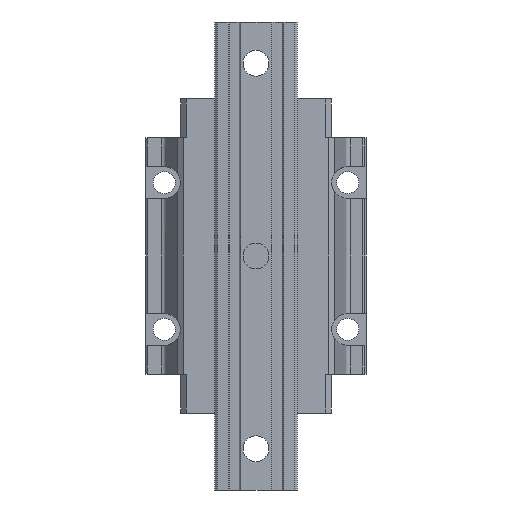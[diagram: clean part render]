
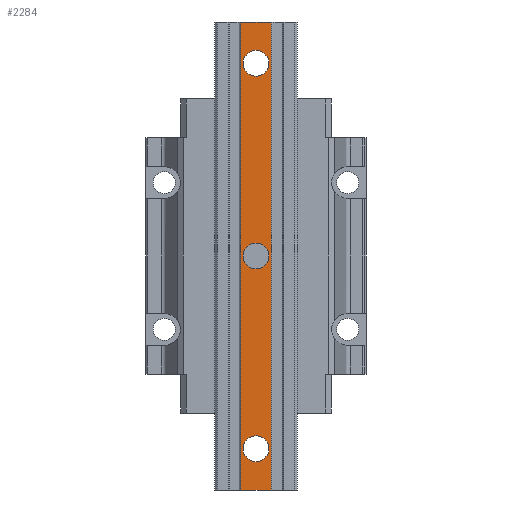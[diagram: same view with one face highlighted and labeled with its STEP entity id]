
A CAD part, front view. The second image highlights one B-rep face of the part: STEP entity #2284.
In plain terms, the highlighted planar face has unit normal (0, -1, 0).
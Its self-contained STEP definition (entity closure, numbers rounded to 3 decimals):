
#85 = DIRECTION ( 'NONE',  ( 0., 1., 0. ) ) ;
#396 = EDGE_CURVE ( 'NONE', #1496, #931, #6444, .T. ) ;
#492 = CARTESIAN_POINT ( 'NONE',  ( 0., -38., 105. ) ) ;
#676 = ORIENTED_EDGE ( 'NONE', *, *, #7451, .T. ) ;
#708 = PLANE ( 'NONE',  #7320 ) ;
#749 = FACE_BOUND ( 'NONE', #5605, .T. ) ;
#785 = CARTESIAN_POINT ( 'NONE',  ( 8.25, -38., 127.5 ) ) ;
#868 = CARTESIAN_POINT ( 'NONE',  ( 0., -38., 0. ) ) ;
#921 = DIRECTION ( 'NONE',  ( 0., 1., 0. ) ) ;
#931 = VERTEX_POINT ( 'NONE', #6433 ) ;
#962 = VERTEX_POINT ( 'NONE', #5772 ) ;
#1232 = ORIENTED_EDGE ( 'NONE', *, *, #4673, .T. ) ;
#1290 = DIRECTION ( 'NONE',  ( 1., 0., 0. ) ) ;
#1383 = CARTESIAN_POINT ( 'NONE',  ( 0., -38., -127.5 ) ) ;
#1455 = LINE ( 'NONE', #6361, #4129 ) ;
#1462 = AXIS2_PLACEMENT_3D ( 'NONE', #6282, #7538, #9045 ) ;
#1474 = VECTOR ( 'NONE', #8332, 1000. ) ;
#1496 = VERTEX_POINT ( 'NONE', #7312 ) ;
#1555 = CARTESIAN_POINT ( 'NONE',  ( 8.25, -38., -127.5 ) ) ;
#1939 = EDGE_CURVE ( 'NONE', #962, #6041, #2915, .T. ) ;
#2057 = CARTESIAN_POINT ( 'NONE',  ( -8.25, -38., -127.5 ) ) ;
#2108 = DIRECTION ( 'NONE',  ( 0., -1., 0. ) ) ;
#2273 = EDGE_CURVE ( 'NONE', #3177, #4601, #1455, .T. ) ;
#2284 = ADVANCED_FACE ( 'NONE', ( #5480, #749, #7618, #3427 ), #708, .T. ) ;
#2392 = ORIENTED_EDGE ( 'NONE', *, *, #6900, .T. ) ;
#2477 = CARTESIAN_POINT ( 'NONE',  ( -8.25, -38., -127.5 ) ) ;
#2798 = DIRECTION ( 'NONE',  ( 0., 1., 0. ) ) ;
#2915 = CIRCLE ( 'NONE', #7164, 7. ) ;
#3106 = CARTESIAN_POINT ( 'NONE',  ( 8.25, -38., -127.5 ) ) ;
#3177 = VERTEX_POINT ( 'NONE', #6179 ) ;
#3209 = AXIS2_PLACEMENT_3D ( 'NONE', #8038, #7253, #6625 ) ;
#3251 = CARTESIAN_POINT ( 'NONE',  ( 0., -38., -98. ) ) ;
#3376 = AXIS2_PLACEMENT_3D ( 'NONE', #3617, #2798, #5722 ) ;
#3427 = FACE_OUTER_BOUND ( 'NONE', #7648, .T. ) ;
#3617 = CARTESIAN_POINT ( 'NONE',  ( 0., -38., 105. ) ) ;
#3640 = DIRECTION ( 'NONE',  ( 0., 0., 1. ) ) ;
#3649 = CIRCLE ( 'NONE', #5980, 7. ) ;
#3956 = CIRCLE ( 'NONE', #3376, 7. ) ;
#4030 = ORIENTED_EDGE ( 'NONE', *, *, #7017, .T. ) ;
#4105 = DIRECTION ( 'NONE',  ( 0., 0., -1. ) ) ;
#4129 = VECTOR ( 'NONE', #4105, 1000. ) ;
#4306 = CARTESIAN_POINT ( 'NONE',  ( 0., -38., 98. ) ) ;
#4423 = EDGE_CURVE ( 'NONE', #8914, #8821, #3649, .T. ) ;
#4484 = VECTOR ( 'NONE', #7867, 1000. ) ;
#4554 = ORIENTED_EDGE ( 'NONE', *, *, #5962, .F. ) ;
#4556 = VERTEX_POINT ( 'NONE', #3106 ) ;
#4558 = ORIENTED_EDGE ( 'NONE', *, *, #4423, .T. ) ;
#4601 = VERTEX_POINT ( 'NONE', #2477 ) ;
#4673 = EDGE_CURVE ( 'NONE', #8821, #8914, #3956, .T. ) ;
#4724 = LINE ( 'NONE', #1383, #7872 ) ;
#4885 = ORIENTED_EDGE ( 'NONE', *, *, #2273, .T. ) ;
#5035 = ORIENTED_EDGE ( 'NONE', *, *, #396, .T. ) ;
#5390 = LINE ( 'NONE', #9042, #1474 ) ;
#5480 = FACE_BOUND ( 'NONE', #7488, .T. ) ;
#5493 = DIRECTION ( 'NONE',  ( 0., 0., 1. ) ) ;
#5514 = EDGE_CURVE ( 'NONE', #6041, #962, #9092, .T. ) ;
#5588 = EDGE_LOOP ( 'NONE', ( #5833, #6526 ) ) ;
#5605 = EDGE_LOOP ( 'NONE', ( #4558, #1232 ) ) ;
#5693 = DIRECTION ( 'NONE',  ( 0., 0., 1. ) ) ;
#5722 = DIRECTION ( 'NONE',  ( 0., 0., 1. ) ) ;
#5772 = CARTESIAN_POINT ( 'NONE',  ( 0., -38., -112. ) ) ;
#5833 = ORIENTED_EDGE ( 'NONE', *, *, #5514, .T. ) ;
#5962 = EDGE_CURVE ( 'NONE', #3177, #8627, #5390, .T. ) ;
#5980 = AXIS2_PLACEMENT_3D ( 'NONE', #492, #8200, #5493 ) ;
#6041 = VERTEX_POINT ( 'NONE', #3251 ) ;
#6121 = CIRCLE ( 'NONE', #7288, 7. ) ;
#6179 = CARTESIAN_POINT ( 'NONE',  ( -8.25, -38., 127.5 ) ) ;
#6212 = CARTESIAN_POINT ( 'NONE',  ( 0., -38., 112. ) ) ;
#6282 = CARTESIAN_POINT ( 'NONE',  ( 0., -38., -105. ) ) ;
#6324 = DIRECTION ( 'NONE',  ( 0., 0., -1. ) ) ;
#6361 = CARTESIAN_POINT ( 'NONE',  ( -8.25, -38., -127.5 ) ) ;
#6433 = CARTESIAN_POINT ( 'NONE',  ( 0., -38., 7. ) ) ;
#6444 = CIRCLE ( 'NONE', #3209, 7. ) ;
#6526 = ORIENTED_EDGE ( 'NONE', *, *, #1939, .T. ) ;
#6576 = CARTESIAN_POINT ( 'NONE',  ( 0., -38., -105. ) ) ;
#6625 = DIRECTION ( 'NONE',  ( 0., 0., 1. ) ) ;
#6900 = EDGE_CURVE ( 'NONE', #4601, #4556, #4724, .T. ) ;
#7017 = EDGE_CURVE ( 'NONE', #931, #1496, #6121, .T. ) ;
#7097 = LINE ( 'NONE', #1555, #4484 ) ;
#7164 = AXIS2_PLACEMENT_3D ( 'NONE', #6576, #921, #3640 ) ;
#7253 = DIRECTION ( 'NONE',  ( 0., 1., 0. ) ) ;
#7288 = AXIS2_PLACEMENT_3D ( 'NONE', #868, #85, #5693 ) ;
#7312 = CARTESIAN_POINT ( 'NONE',  ( 0., -38., -7. ) ) ;
#7320 = AXIS2_PLACEMENT_3D ( 'NONE', #2057, #2108, #6324 ) ;
#7451 = EDGE_CURVE ( 'NONE', #4556, #8627, #7097, .T. ) ;
#7488 = EDGE_LOOP ( 'NONE', ( #4030, #5035 ) ) ;
#7538 = DIRECTION ( 'NONE',  ( 0., 1., 0. ) ) ;
#7618 = FACE_BOUND ( 'NONE', #5588, .T. ) ;
#7648 = EDGE_LOOP ( 'NONE', ( #676, #4554, #4885, #2392 ) ) ;
#7867 = DIRECTION ( 'NONE',  ( 0., 0., 1. ) ) ;
#7872 = VECTOR ( 'NONE', #1290, 1000. ) ;
#8038 = CARTESIAN_POINT ( 'NONE',  ( 0., -38., 0. ) ) ;
#8200 = DIRECTION ( 'NONE',  ( 0., 1., 0. ) ) ;
#8332 = DIRECTION ( 'NONE',  ( 1., 0., 0. ) ) ;
#8627 = VERTEX_POINT ( 'NONE', #785 ) ;
#8821 = VERTEX_POINT ( 'NONE', #4306 ) ;
#8914 = VERTEX_POINT ( 'NONE', #6212 ) ;
#9042 = CARTESIAN_POINT ( 'NONE',  ( 0., -38., 127.5 ) ) ;
#9045 = DIRECTION ( 'NONE',  ( 0., 0., 1. ) ) ;
#9092 = CIRCLE ( 'NONE', #1462, 7. ) ;
